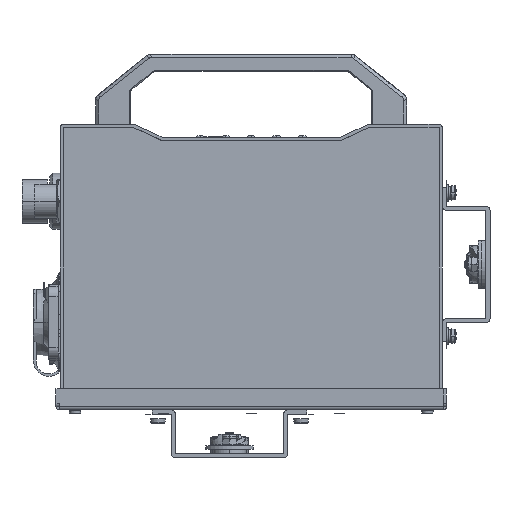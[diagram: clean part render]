
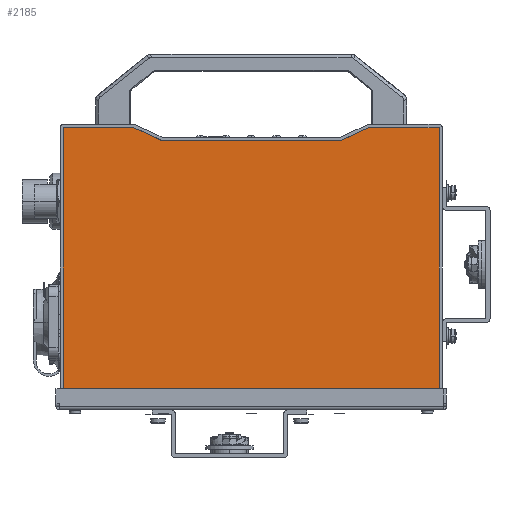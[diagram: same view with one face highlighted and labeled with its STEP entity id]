
A CAD part, front view. The second image highlights one B-rep face of the part: STEP entity #2185.
In plain terms, the highlighted planar face has unit normal (0, -1, 0).
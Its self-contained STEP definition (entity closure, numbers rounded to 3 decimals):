
#2098=DIRECTION('',(1.,0.,0.));
#2099=VECTOR('',#2098,84.659);
#2100=CARTESIAN_POINT('',(-42.329,-155.,58.5));
#2101=LINE('',#2100,#2099);
#2102=DIRECTION('',(0.908,0.,0.419));
#2103=VECTOR('',#2102,14.318);
#2104=CARTESIAN_POINT('',(42.329,-155.,58.5));
#2105=LINE('',#2104,#2103);
#2106=DIRECTION('',(1.,0.,0.));
#2107=VECTOR('',#2106,33.171);
#2108=CARTESIAN_POINT('',(55.329,-155.,64.5));
#2109=LINE('',#2108,#2107);
#2110=DIRECTION('',(0.,0.,-1.));
#2111=VECTOR('',#2110,129.);
#2112=CARTESIAN_POINT('',(88.5,-155.,64.5));
#2113=LINE('',#2112,#2111);
#2114=DIRECTION('',(-1.,0.,0.));
#2115=VECTOR('',#2114,11.5);
#2116=CARTESIAN_POINT('',(88.5,-155.,-64.5));
#2117=LINE('',#2116,#2115);
#2118=DIRECTION('',(-1.,0.,0.));
#2119=VECTOR('',#2118,154.);
#2120=CARTESIAN_POINT('',(77.,-155.,-64.5));
#2121=LINE('',#2120,#2119);
#2122=DIRECTION('',(-1.,0.,0.));
#2123=VECTOR('',#2122,11.5);
#2124=CARTESIAN_POINT('',(-77.,-155.,-64.5));
#2125=LINE('',#2124,#2123);
#2126=DIRECTION('',(0.,0.,1.));
#2127=VECTOR('',#2126,129.);
#2128=CARTESIAN_POINT('',(-88.5,-155.,-64.5));
#2129=LINE('',#2128,#2127);
#2130=DIRECTION('',(1.,0.,0.));
#2131=VECTOR('',#2130,33.171);
#2132=CARTESIAN_POINT('',(-88.5,-155.,64.5));
#2133=LINE('',#2132,#2131);
#2134=DIRECTION('',(0.908,0.,-0.419));
#2135=VECTOR('',#2134,14.318);
#2136=CARTESIAN_POINT('',(-55.329,-155.,64.5));
#2137=LINE('',#2136,#2135);
#2138=CARTESIAN_POINT('',(-77.,-155.,-64.5));
#2139=CARTESIAN_POINT('',(77.,-155.,-64.5));
#2140=VERTEX_POINT('',#2138);
#2141=VERTEX_POINT('',#2139);
#2142=CARTESIAN_POINT('',(88.5,-155.,-64.5));
#2143=CARTESIAN_POINT('',(88.5,-155.,64.5));
#2144=VERTEX_POINT('',#2142);
#2145=VERTEX_POINT('',#2143);
#2146=CARTESIAN_POINT('',(-88.5,-155.,-64.5));
#2147=CARTESIAN_POINT('',(-88.5,-155.,64.5));
#2148=VERTEX_POINT('',#2146);
#2149=VERTEX_POINT('',#2147);
#2150=CARTESIAN_POINT('',(-42.329,-155.,58.5));
#2151=CARTESIAN_POINT('',(42.329,-155.,58.5));
#2152=VERTEX_POINT('',#2150);
#2153=VERTEX_POINT('',#2151);
#2154=CARTESIAN_POINT('',(-55.329,-155.,64.5));
#2155=VERTEX_POINT('',#2154);
#2156=CARTESIAN_POINT('',(55.329,-155.,64.5));
#2157=VERTEX_POINT('',#2156);
#2158=CARTESIAN_POINT('',(0.,-155.,-1.));
#2159=DIRECTION('',(0.,1.,0.));
#2160=DIRECTION('',(1.,0.,0.));
#2161=AXIS2_PLACEMENT_3D('',#2158,#2159,#2160);
#2162=PLANE('',#2161);
#2164=ORIENTED_EDGE('',*,*,#2163,.T.);
#2166=ORIENTED_EDGE('',*,*,#2165,.T.);
#2168=ORIENTED_EDGE('',*,*,#2167,.T.);
#2170=ORIENTED_EDGE('',*,*,#2169,.T.);
#2172=ORIENTED_EDGE('',*,*,#2171,.T.);
#2174=ORIENTED_EDGE('',*,*,#2173,.T.);
#2176=ORIENTED_EDGE('',*,*,#2175,.T.);
#2178=ORIENTED_EDGE('',*,*,#2177,.T.);
#2180=ORIENTED_EDGE('',*,*,#2179,.T.);
#2182=ORIENTED_EDGE('',*,*,#2181,.T.);
#2183=EDGE_LOOP('',(#2164,#2166,#2168,#2170,#2172,#2174,#2176,#2178,#2180,
#2182));
#2184=FACE_OUTER_BOUND('',#2183,.F.);
#2163=EDGE_CURVE('',#2152,#2153,#2101,.T.);
#2165=EDGE_CURVE('',#2153,#2157,#2105,.T.);
#2167=EDGE_CURVE('',#2157,#2145,#2109,.T.);
#2169=EDGE_CURVE('',#2145,#2144,#2113,.T.);
#2171=EDGE_CURVE('',#2144,#2141,#2117,.T.);
#2173=EDGE_CURVE('',#2141,#2140,#2121,.T.);
#2175=EDGE_CURVE('',#2140,#2148,#2125,.T.);
#2177=EDGE_CURVE('',#2148,#2149,#2129,.T.);
#2179=EDGE_CURVE('',#2149,#2155,#2133,.T.);
#2181=EDGE_CURVE('',#2155,#2152,#2137,.T.);
#2185=ADVANCED_FACE('',(#2184),#2162,.F.);
